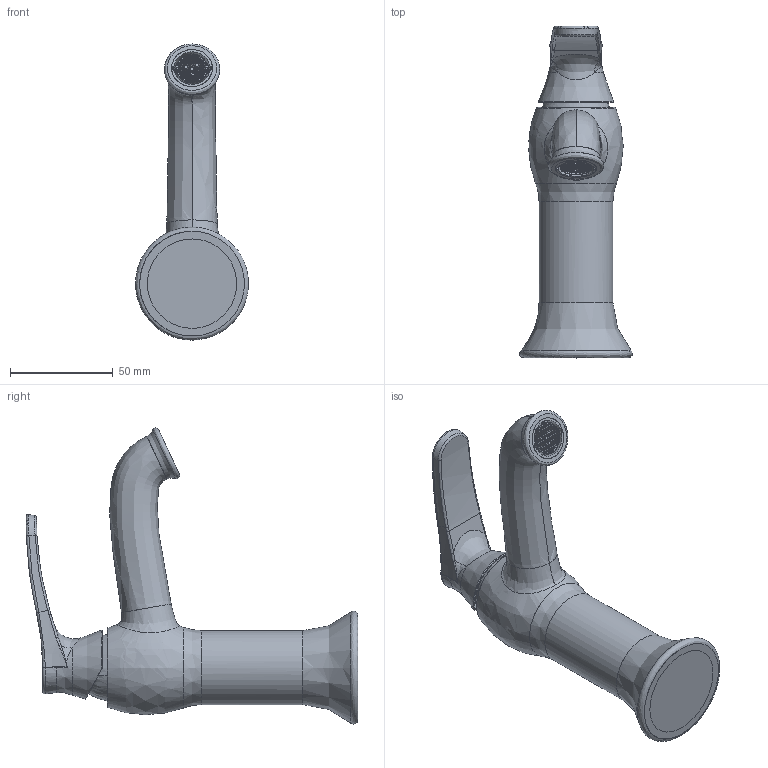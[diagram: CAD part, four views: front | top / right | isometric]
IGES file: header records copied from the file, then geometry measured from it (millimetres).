
Global section: file name: 8d67f135-d105-4191-984a-6d9cf0429dae; native system: unknown; preprocessor: unknown; author: unknown; organization: unknown; date: 20201007.121339; units: millimetre
Bounding box: 54.99 x 161.54 x 144.22 mm (x, y, z)
Volume: 20044 mm3; surface area: 66144 mm2
Topology: 7 solids, 8 shells, 3575 faces, 11215 edges, 7467 vertices
Faces by surface type: bspline 3571, offset 4
